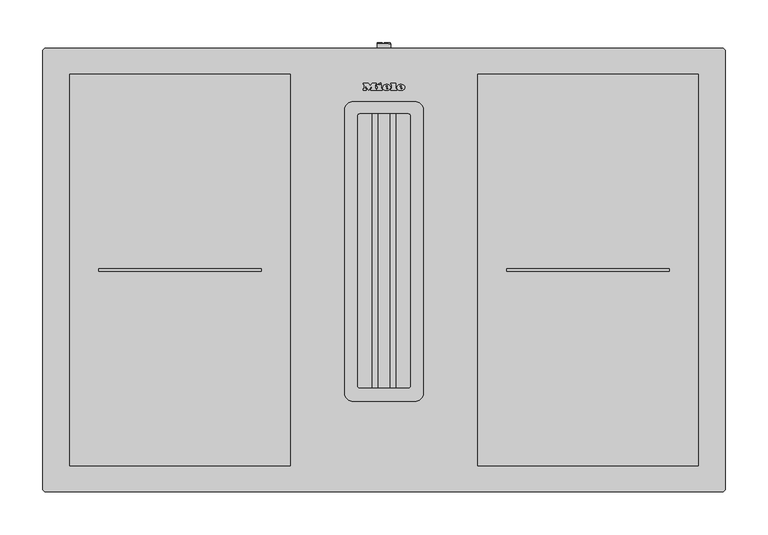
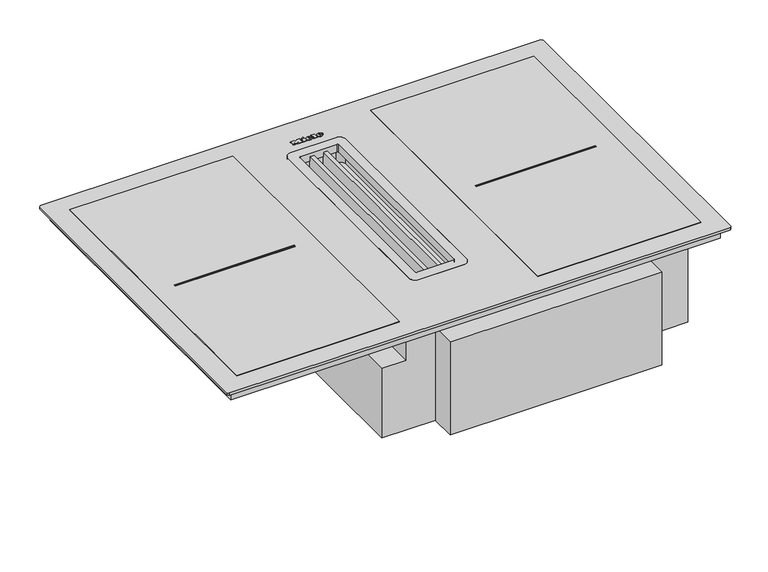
"""IFC4 building model written with IfcOpenShell, lengths in millimetres: proxy geometry, 12904880_BNI_KMDA7676-1FL : 26767675_BNI_12904880_KMDA7676-1FL."""

from ifc_helpers import new_model, si_unit, point, frame, frame_2d, origin, origin_with_axes, place, context, project, spatial, polyline, circle_curve, ellipse_curve, trimmed, segment, composite_curve, outline, extrude, source, transform, mapped, element, save
from ifc_brep_helpers import plane_surface, cylinder_surface, revolved_surface, extruded_surface, advanced_brep


def specialty_equipment_d1ee9a21(model_context):
    return source(origin(), model_context, "Body", "SolidModel", [
        advanced_brep(
        [(19.088016, 472.896, 5.0), (19.088016, 473.704, 5.0), (24.440016, 473.704, 5.0), (15.128016, 473.704, 5.0), (17.328016, 471.0, 5.0), (24.304016, 472.896, 5.0), (21.888016, 472.896, 5.0), (19.984016, 472.0, 5.0), (19.088016, 474.728, 5.0), (19.088016, 475.6, 5.0), (20.456016, 475.6, 5.0), (20.456016, 474.728, 5.0), (19.088016, 472.896, 4.0), (19.984016, 472.0, 4.0), (21.888016, 472.896, 4.0), (24.304016, 472.896, 4.0), (17.328016, 471.0, 4.0), (15.128016, 473.704, 4.0), (24.440016, 473.704, 4.0), (19.088016, 473.704, 4.0), (19.088016, 474.728, 4.0), (20.456016, 474.728, 4.0), (20.456016, 475.6, 4.0), (19.088016, 475.6, 4.0)],
        [
            (0, 1),
            (1, 2),
            (2, 3, ellipse_curve(frame((19.784016, 473.704, 5.0), z_axis=(0.0, 0.0, 1.0), x_axis=(-1.0, 0.0, 0.0)), 4.656, 3.848)),
            (3, 4, circle_curve(frame((18.2240596, 473.976, 5.0), z_axis=(0.0, 0.0, 1.0), x_axis=(0.0, -1.0, 0.0)), 3.1079688)),
            (4, 5, circle_curve(frame((19.6908096, 476.088, 5.0), z_axis=(0.0, 0.0, 1.0), x_axis=(0.0, -1.0, 0.0)), 5.6098607)),
            (5, 6),
            (6, 7, circle_curve(frame((20.3750748, 473.64, 5.0), z_axis=(0.0, 0.0, -1.0), x_axis=(0.0, -1.0, 0.0)), 1.6859795)),
            (7, 0, circle_curve(frame((19.984016, 472.896, 5.0), z_axis=(0.0, 0.0, -1.0), x_axis=(0.0, -1.0, 0.0)), 0.896)),
            (8, 9),
            (9, 10, circle_curve(frame((19.772016, 475.6, 5.0), z_axis=(0.0, 0.0, -1.0), x_axis=(0.0, -1.0, 0.0)), 0.684)),
            (10, 11),
            (11, 8),
            (12, 13, circle_curve(frame((19.984016, 472.896, 4.0), z_axis=(0.0, 0.0, 1.0), x_axis=(0.0, -1.0, 0.0)), 0.896)),
            (13, 14, circle_curve(frame((20.3750748, 473.64, 4.0), z_axis=(0.0, 0.0, 1.0), x_axis=(0.0, -1.0, 0.0)), 1.6859795)),
            (14, 15),
            (15, 16, circle_curve(frame((19.6908096, 476.088, 4.0), z_axis=(0.0, 0.0, -1.0), x_axis=(0.0, -1.0, 0.0)), 5.6098607)),
            (16, 17, circle_curve(frame((18.2240596, 473.976, 4.0), z_axis=(0.0, 0.0, -1.0), x_axis=(0.0, -1.0, 0.0)), 3.1079688)),
            (17, 18, ellipse_curve(frame((19.784016, 473.704, 4.0), z_axis=(0.0, 0.0, -1.0), x_axis=(-1.0, 0.0, 0.0)), 4.656, 3.848)),
            (18, 19),
            (19, 12),
            (20, 21),
            (21, 22),
            (22, 23, circle_curve(frame((19.772016, 475.6, 4.0), z_axis=(0.0, 0.0, 1.0), x_axis=(0.0, -1.0, 0.0)), 0.684)),
            (23, 20),
            (0, 12),
            (19, 1),
            (18, 2),
            (5, 15),
            (14, 6),
            (17, 3),
            (13, 7),
            (16, 4),
            (8, 20),
            (23, 9),
            (22, 10),
            (21, 11),
        ],
        [
            plane_surface(frame((19.088016, 473.704, 5.0), z_axis=(0.0, 0.0, 1.0), x_axis=(0.0, 1.0, 0.0))),
            plane_surface(frame((19.088016, 473.704, 4.0), z_axis=(0.0, 0.0, -1.0), x_axis=(0.0, -1.0, 0.0))),
            plane_surface(frame((19.088016, 472.896, 5.0), z_axis=(1.0, 0.0, 0.0), x_axis=(0.0, 0.0, -1.0))),
            plane_surface(frame((19.088016, 473.704, 5.0), z_axis=(0.0, -1.0, 0.0), x_axis=(0.0, 0.0, -1.0))),
            plane_surface(frame((24.304016, 472.896, 5.0), z_axis=(0.0, 1.0, 0.0), x_axis=(0.0, 0.0, -1.0))),
            extruded_surface(trimmed(ellipse_curve(frame((19.784016, 473.704, 3.0), z_axis=(0.0, 0.0, 1.0), x_axis=(-1.0, 0.0, 0.0)), 4.656, 3.848), [point((24.440016, 473.704, 3.0))], [point((15.128016, 473.704, 3.0))], True, "CARTESIAN"), (0.0, 0.0, 1.0), 1.0),
            revolved_surface(polyline([(20.3750748, 471.9540205, 4.0), (20.3750748, 471.9540205, 5.0)]), (20.3750748, 473.64, 4.0), (0.0, 0.0, -1.0)),
            revolved_surface(polyline([(19.984016, 472.0, 4.0), (19.984016, 472.0, 5.0)]), (19.984016, 472.896, 4.0), (0.0, 0.0, -1.0)),
            cylinder_surface(frame((18.2240596, 473.976, 4.0), z_axis=(0.0, 0.0, 1.0), x_axis=(0.0, -1.0, 0.0)), 3.1079688),
            cylinder_surface(frame((19.6908096, 476.088, 4.0), z_axis=(0.0, 0.0, 1.0), x_axis=(0.0, -1.0, 0.0)), 5.6098607),
            plane_surface(frame((19.088016, 474.728, 5.0), z_axis=(1.0, 0.0, 0.0), x_axis=(0.0, 0.0, -1.0))),
            revolved_surface(polyline([(19.772016, 474.916, 4.0), (19.772016, 474.916, 5.0)]), (19.772016, 475.6, 4.0), (0.0, 0.0, -1.0)),
            plane_surface(frame((20.456016, 475.6, 5.0), z_axis=(-1.0, 0.0, 0.0), x_axis=(0.0, 0.0, -1.0))),
            plane_surface(frame((20.456016, 474.728, 5.0), z_axis=(0.0, 1.0, 0.0), x_axis=(0.0, 0.0, -1.0))),
        ],
        [
            (0, [[1, 2, 3, 4, 5, 6, 7, 8], [9, 10, 11, 12]]),
            (1, [[13, 14, 15, 16, 17, 18, 19, 20], [21, 22, 23, 24]]),
            (2, [[-1, 25, -20, 26]]),
            (3, [[-2, -26, -19, 27]]),
            (4, [[-6, 28, -15, 29]]),
            (5, [[-3, -27, -18, 30]]),
            (6, [[-7, -29, -14, 31]]),
            (7, [[-8, -31, -13, -25]]),
            (8, [[-4, -30, -17, 32]]),
            (9, [[-5, -32, -16, -28]]),
            (10, [[-9, 33, -24, 34]]),
            (11, [[-10, -34, -23, 35]]),
            (12, [[-11, -35, -22, 36]]),
            (13, [[-12, -36, -21, -33]]),
        ],
    ),
        advanced_brep(
        [(2.392016, 472.896, 5.0), (2.392016, 473.704, 5.0), (7.744016, 473.704, 5.0), (-1.567984, 473.704, 5.0), (0.632016, 471.0, 5.0), (7.608016, 472.896, 5.0), (5.192016, 472.896, 5.0), (3.288016, 472.0, 5.0), (2.392016, 474.728, 5.0), (2.392016, 475.6, 5.0), (3.760016, 475.6, 5.0), (3.760016, 474.728, 5.0), (2.392016, 472.896, 4.0), (3.288016, 472.0, 4.0), (5.192016, 472.896, 4.0), (7.608016, 472.896, 4.0), (0.632016, 471.0, 4.0), (-1.567984, 473.704, 4.0), (7.744016, 473.704, 4.0), (2.392016, 473.704, 4.0), (2.392016, 474.728, 4.0), (3.760016, 474.728, 4.0), (3.760016, 475.6, 4.0), (2.392016, 475.6, 4.0)],
        [
            (0, 1),
            (1, 2),
            (2, 3, ellipse_curve(frame((3.088016, 473.704, 5.0), z_axis=(0.0, 0.0, 1.0), x_axis=(-1.0, 0.0, 0.0)), 4.656, 3.848)),
            (3, 4, circle_curve(frame((1.5280596, 473.976, 5.0), z_axis=(0.0, 0.0, 1.0), x_axis=(0.0, -1.0, 0.0)), 3.1079688)),
            (4, 5, circle_curve(frame((2.9948096, 476.088, 5.0), z_axis=(0.0, 0.0, 1.0), x_axis=(0.0, -1.0, 0.0)), 5.6098607)),
            (5, 6),
            (6, 7, circle_curve(frame((3.6790748, 473.64, 5.0), z_axis=(0.0, 0.0, -1.0), x_axis=(0.0, -1.0, 0.0)), 1.6859795)),
            (7, 0, circle_curve(frame((3.288016, 472.896, 5.0), z_axis=(0.0, 0.0, -1.0), x_axis=(0.0, -1.0, 0.0)), 0.896)),
            (8, 9),
            (9, 10, circle_curve(frame((3.076016, 475.6, 5.0), z_axis=(0.0, 0.0, -1.0), x_axis=(0.0, -1.0, 0.0)), 0.684)),
            (10, 11),
            (11, 8),
            (12, 13, circle_curve(frame((3.288016, 472.896, 4.0), z_axis=(0.0, 0.0, 1.0), x_axis=(0.0, -1.0, 0.0)), 0.896)),
            (13, 14, circle_curve(frame((3.6790748, 473.64, 4.0), z_axis=(0.0, 0.0, 1.0), x_axis=(0.0, -1.0, 0.0)), 1.6859795)),
            (14, 15),
            (15, 16, circle_curve(frame((2.9948096, 476.088, 4.0), z_axis=(0.0, 0.0, -1.0), x_axis=(0.0, -1.0, 0.0)), 5.6098607)),
            (16, 17, circle_curve(frame((1.5280596, 473.976, 4.0), z_axis=(0.0, 0.0, -1.0), x_axis=(0.0, -1.0, 0.0)), 3.1079688)),
            (17, 18, ellipse_curve(frame((3.088016, 473.704, 4.0), z_axis=(0.0, 0.0, -1.0), x_axis=(-1.0, 0.0, 0.0)), 4.656, 3.848)),
            (18, 19),
            (19, 12),
            (20, 21),
            (21, 22),
            (22, 23, circle_curve(frame((3.076016, 475.6, 4.0), z_axis=(0.0, 0.0, 1.0), x_axis=(0.0, -1.0, 0.0)), 0.684)),
            (23, 20),
            (0, 12),
            (19, 1),
            (18, 2),
            (5, 15),
            (14, 6),
            (17, 3),
            (13, 7),
            (16, 4),
            (8, 20),
            (23, 9),
            (22, 10),
            (21, 11),
        ],
        [
            plane_surface(frame((2.392016, 473.704, 5.0), z_axis=(0.0, 0.0, 1.0), x_axis=(0.0, 1.0, 0.0))),
            plane_surface(frame((2.392016, 473.704, 4.0), z_axis=(0.0, 0.0, -1.0), x_axis=(0.0, -1.0, 0.0))),
            plane_surface(frame((2.392016, 472.896, 5.0), z_axis=(1.0, 0.0, 0.0), x_axis=(0.0, 0.0, -1.0))),
            plane_surface(frame((2.392016, 473.704, 5.0), z_axis=(0.0, -1.0, 0.0), x_axis=(0.0, 0.0, -1.0))),
            plane_surface(frame((7.608016, 472.896, 5.0), z_axis=(0.0, 1.0, 0.0), x_axis=(0.0, 0.0, -1.0))),
            extruded_surface(trimmed(ellipse_curve(frame((3.088016, 473.704, 3.0), z_axis=(0.0, 0.0, 1.0), x_axis=(-1.0, 0.0, 0.0)), 4.656, 3.848), [point((7.744016, 473.704, 3.0))], [point((-1.567984, 473.704, 3.0))], True, "CARTESIAN"), (0.0, 0.0, 1.0), 1.0),
            revolved_surface(polyline([(3.6790748, 471.9540205, 4.0), (3.6790748, 471.9540205, 5.0)]), (3.6790748, 473.64, 4.0), (0.0, 0.0, -1.0)),
            revolved_surface(polyline([(3.288016, 472.0, 4.0), (3.288016, 472.0, 5.0)]), (3.288016, 472.896, 4.0), (0.0, 0.0, -1.0)),
            cylinder_surface(frame((1.5280596, 473.976, 4.0), z_axis=(0.0, 0.0, 1.0), x_axis=(0.0, -1.0, 0.0)), 3.1079688),
            cylinder_surface(frame((2.9948096, 476.088, 4.0), z_axis=(0.0, 0.0, 1.0), x_axis=(0.0, -1.0, 0.0)), 5.6098607),
            plane_surface(frame((2.392016, 474.728, 5.0), z_axis=(1.0, 0.0, 0.0), x_axis=(0.0, 0.0, -1.0))),
            revolved_surface(polyline([(3.076016, 474.916, 4.0), (3.076016, 474.916, 5.0)]), (3.076016, 475.6, 4.0), (0.0, 0.0, -1.0)),
            plane_surface(frame((3.760016, 475.6, 5.0), z_axis=(-1.0, 0.0, 0.0), x_axis=(0.0, 0.0, -1.0))),
            plane_surface(frame((3.760016, 474.728, 5.0), z_axis=(0.0, 1.0, 0.0), x_axis=(0.0, 0.0, -1.0))),
        ],
        [
            (0, [[1, 2, 3, 4, 5, 6, 7, 8], [9, 10, 11, 12]]),
            (1, [[13, 14, 15, 16, 17, 18, 19, 20], [21, 22, 23, 24]]),
            (2, [[-1, 25, -20, 26]]),
            (3, [[-2, -26, -19, 27]]),
            (4, [[-6, 28, -15, 29]]),
            (5, [[-3, -27, -18, 30]]),
            (6, [[-7, -29, -14, 31]]),
            (7, [[-8, -31, -13, -25]]),
            (8, [[-4, -30, -17, 32]]),
            (9, [[-5, -32, -16, -28]]),
            (10, [[-9, 33, -24, 34]]),
            (11, [[-10, -34, -23, 35]]),
            (12, [[-11, -35, -22, 36]]),
            (13, [[-12, -36, -21, -33]]),
        ],
    ),
        extrude(outline(polyline([(-6.351984, 478.528), (-3.631984, 479.792), (-3.031984, 478.496), (-5.743984, 477.232), (-6.351984, 478.528)])), frame((0.0, 0.0, 4.0), z_axis=(0.0, 0.0, 1.0), x_axis=(1.0, 0.0, 0.0)), (0.0, 0.0, 1.0), 1.0),
        extrude(outline(polyline([(-8.327984, 477.056), (-2.943984, 477.056), (-2.943984, 472.344), (-2.015984, 472.344), (-2.015984, 471.0), (-8.327984, 471.0), (-8.327984, 472.344), (-7.375984, 472.344), (-7.375984, 475.624), (-8.327984, 475.624), (-8.327984, 477.056)])), frame((0.0, 0.0, 4.0), z_axis=(0.0, 0.0, 1.0), x_axis=(1.0, 0.0, 0.0)), (0.0, 0.0, 1.0), 1.0),
        extrude(outline(polyline([(8.192016, 477.696), (8.192016, 479.0), (13.696016, 479.0), (13.696016, 472.344), (14.680016, 472.344), (14.680016, 471.0), (8.192016, 471.0), (8.192016, 472.344), (9.152016, 472.344), (9.152016, 477.696), (8.192016, 477.696)])), frame((0.0, 0.0, 4.0), z_axis=(0.0, 0.0, 1.0), x_axis=(1.0, 0.0, 0.0)), (0.0, 0.0, 1.0), 1.0),
        extrude(outline(polyline([(-24.271984, 477.696), (-24.271984, 479.0), (-18.695984, 479.0), (-16.351984, 476.0), (-14.015984, 479.0), (-9.143984, 479.0), (-9.143984, 477.696), (-10.159984, 477.696), (-10.159984, 472.344), (-9.143984, 472.344), (-9.143984, 471.0), (-15.527984, 471.0), (-15.527984, 472.344), (-14.543984, 472.344), (-14.543984, 475.8152223), (-18.135984, 471.0), (-21.711984, 475.7471247), (-21.711984, 472.344), (-20.751984, 472.344), (-20.751984, 471.0), (-24.271984, 471.0), (-24.271984, 472.344), (-23.303984, 472.344), (-23.303984, 477.696), (-24.271984, 477.696)])), frame((0.0, 0.0, 4.0), z_axis=(0.0, 0.0, 1.0), x_axis=(1.0, 0.0, 0.0)), (0.0, 0.0, 1.0), 1.0),
        extrude(outline(polyline([(-109.7799963, 489.4478004), (-109.7799963, 30.4999887), (-368.2201181, 30.4999887), (-368.2201181, 489.4478004), (-109.7799963, 489.4478004)]), holes=[polyline([(-143.6799963, 261.5278004), (-334.3201181, 261.5278004), (-334.3201181, 258.3678004), (-143.6799963, 258.3678004), (-143.6799963, 261.5278004)])]), frame((0.0, 0.0, 4.0), z_axis=(0.0, 0.0, 1.0), x_axis=(1.0, 0.0, 0.0)), (0.0, 0.0, 1.0), 1.0),
        extrude(outline(polyline([(109.7799963, 489.4478004), (368.2201181, 489.4478004), (368.2201181, 30.4999887), (109.7799963, 30.4999887), (109.7799963, 489.4478004)]), holes=[polyline([(143.6799963, 261.5278004), (143.6799963, 258.3678004), (334.3201181, 258.3678004), (334.3201181, 261.5278004), (143.6799963, 261.5278004)])]), frame((0.0, 0.0, 4.0), z_axis=(0.0, 0.0, 1.0), x_axis=(1.0, 0.0, 0.0)), (0.0, 0.0, 1.0), 1.0),
        extrude(outline(composite_curve([segment(polyline([(-45.9999987, 115.9999992), (-45.9999987, 447.4999992)]), True, "CONTINUOUS"), segment(trimmed(circle_curve(frame_2d((-35.9999987, 447.4999992)), 10.0), [point((-45.9999987, 447.4999992))], [point((-35.9999987, 457.4999992))], False, "CARTESIAN"), True, "CONTINUOUS"), segment(polyline([(-35.9999987, 457.4999992), (35.9999987, 457.4999992)]), True, "CONTINUOUS"), segment(trimmed(circle_curve(frame_2d((35.9999987, 447.4999992)), 10.0), [point((35.9999987, 457.4999992))], [point((45.9999987, 447.4999992))], False, "CARTESIAN"), True, "CONTINUOUS"), segment(polyline([(45.9999987, 447.4999992), (45.9999987, 115.9999992)]), True, "CONTINUOUS"), segment(trimmed(circle_curve(frame_2d((35.9999987, 115.9999992)), 10.0), [point((45.9999987, 115.9999992))], [point((35.9999987, 105.9999992))], False, "CARTESIAN"), True, "CONTINUOUS"), segment(polyline([(35.9999987, 105.9999992), (-35.9999987, 105.9999992)]), True, "CONTINUOUS"), segment(trimmed(circle_curve(frame_2d((-35.9999987, 115.9999992)), 10.0), [point((-35.9999987, 105.9999992))], [point((-45.9999987, 115.9999992))], False, "CARTESIAN"), True, "CONTINUOUS")], self_intersect=False), holes=[composite_curve([segment(trimmed(circle_curve(frame_2d((-28.688139, 124.1576538)), 2.0), [point((-30.688139, 124.1576538))], [point((-28.688139, 122.1576538))], True, "CARTESIAN"), True, "CONTINUOUS"), segment(polyline([(-28.688139, 122.1576538), (28.688139, 122.1576538)]), True, "CONTINUOUS"), segment(trimmed(circle_curve(frame_2d((28.688139, 124.1576538)), 2.0), [point((28.688139, 122.1576538))], [point((30.688139, 124.1576538))], True, "CARTESIAN"), True, "CONTINUOUS"), segment(polyline([(30.688139, 124.1576538), (30.688139, 440.9186707)]), True, "CONTINUOUS"), segment(trimmed(circle_curve(frame_2d((28.688139, 440.9186707)), 2.0), [point((30.688139, 440.9186707))], [point((28.688139, 442.9186707))], True, "CARTESIAN"), True, "CONTINUOUS"), segment(polyline([(28.688139, 442.9186707), (-28.688139, 442.9186707)]), True, "CONTINUOUS"), segment(trimmed(circle_curve(frame_2d((-28.688139, 440.9186707)), 2.0), [point((-28.688139, 442.9186707))], [point((-30.688139, 440.9186707))], True, "CARTESIAN"), True, "CONTINUOUS"), segment(polyline([(-30.688139, 440.9186707), (-30.688139, 124.1576538)]), True, "CONTINUOUS")], self_intersect=False)]), frame((0.0, 0.0, -8.5215403), z_axis=(0.0, 0.0, 1.0), x_axis=(1.0, 0.0, 0.0)), (0.0, 0.0, 1.0), 12.5215403),
        extrude(outline(polyline([(-343.1216701, 96.3863349), (-343.1216701, 495.0), (-75.402586, 495.0), (-75.402586, 96.3863349), (-343.1216701, 96.3863349)])), frame((0.0, 0.0, -46.5), z_axis=(0.0, 0.0, 1.0), x_axis=(1.0, 0.0, 0.0)), (0.0, 0.0, 1.0), 28.6958097),
        extrude(outline(polyline([(336.1107845, 495.0), (336.1107845, 96.3863349), (104.0, 96.3863349), (104.0, 495.0), (336.1107845, 495.0)])), frame((0.0, 0.0, -46.5), z_axis=(0.0, 0.0, 1.0), x_axis=(1.0, 0.0, 0.0)), (0.0, 0.0, 1.0), 28.6958097),
        extrude(outline(polyline([(388.5, 508.4999986), (388.5, 11.4999971), (-388.5, 11.4999971), (-388.5, 508.4999986), (388.5, 508.4999986)]), holes=[composite_curve([segment(polyline([(45.9999987, 115.9999979), (45.9999987, 447.4999992)]), True, "CONTINUOUS"), segment(trimmed(circle_curve(frame_2d((35.9999987, 447.4999992)), 10.0), [point((45.9999987, 447.4999992))], [point((35.9999987, 457.4999992))], True, "CARTESIAN"), True, "CONTINUOUS"), segment(polyline([(35.9999987, 457.4999992), (-35.9999987, 457.4999992)]), True, "CONTINUOUS"), segment(trimmed(circle_curve(frame_2d((-35.9999987, 447.4999992)), 10.0), [point((-35.9999987, 457.4999992))], [point((-45.9999987, 447.4999992))], True, "CARTESIAN"), True, "CONTINUOUS"), segment(polyline([(-45.9999987, 447.4999992), (-45.9999987, 115.9999979)]), True, "CONTINUOUS"), segment(trimmed(circle_curve(frame_2d((-36.0, 115.9999979)), 9.9999987), [point((-45.9999987, 115.9999979))], [point((-36.0, 105.9999992))], True, "CARTESIAN"), True, "CONTINUOUS"), segment(polyline([(-36.0, 105.9999992), (36.0, 105.9999992)]), True, "CONTINUOUS"), segment(trimmed(circle_curve(frame_2d((36.0, 115.9999979)), 9.9999987), [point((36.0, 105.9999992))], [point((45.9999987, 115.9999979))], True, "CARTESIAN"), True, "CONTINUOUS")], self_intersect=False)]), frame((0.0, 0.0, -17.8041903), z_axis=(0.0, 0.0, 1.0), x_axis=(1.0, 0.0, 0.0)), (0.0, 0.0, 1.0), 17.8041903),
        extrude(outline(polyline([(397.5, 520.0), (400.0, 517.5), (400.0, 2.5), (397.5, 0.0), (-397.5, 0.0), (-400.0, 2.5), (-400.0, 517.5), (-397.5, 520.0), (397.5, 520.0)]), holes=[composite_curve([segment(polyline([(35.9999987, 457.4999992), (-35.9999987, 457.4999992)]), True, "CONTINUOUS"), segment(trimmed(circle_curve(frame_2d((-35.9999987, 447.4999992)), 10.0), [point((-35.9999987, 457.4999992))], [point((-45.9999987, 447.4999992))], True, "CARTESIAN"), True, "CONTINUOUS"), segment(polyline([(-45.9999987, 447.4999992), (-45.9999987, 115.9999979)]), True, "CONTINUOUS"), segment(trimmed(circle_curve(frame_2d((-36.0, 115.9999979)), 9.9999987), [point((-45.9999987, 115.9999979))], [point((-36.0, 105.9999992))], True, "CARTESIAN"), True, "CONTINUOUS"), segment(polyline([(-36.0, 105.9999992), (36.0, 105.9999992)]), True, "CONTINUOUS"), segment(trimmed(circle_curve(frame_2d((36.0, 115.9999979)), 9.9999987), [point((36.0, 105.9999992))], [point((45.9999987, 115.9999979))], True, "CARTESIAN"), True, "CONTINUOUS"), segment(polyline([(45.9999987, 115.9999979), (45.9999987, 447.4999992)]), True, "CONTINUOUS"), segment(trimmed(circle_curve(frame_2d((35.9999987, 447.4999992)), 10.0), [point((45.9999987, 447.4999992))], [point((35.9999987, 457.4999992))], True, "CARTESIAN"), True, "CONTINUOUS")], self_intersect=False)]), origin_with_axes(), (0.0, 0.0, 1.0), 4.0),
        extrude(outline(composite_curve([segment(trimmed(circle_curve(frame_2d((-148.0, 170.0)), 78.9393921), [point((-148.0, 91.0606079))], [point((-148.0, 248.9393921))], False, "CARTESIAN"), True, "CONTINUOUS"), segment(trimmed(circle_curve(frame_2d((-148.0, 170.0)), 78.9393921), [point((-148.0, 248.9393921))], [point((-148.0, 91.0606079))], False, "CARTESIAN"), True, "CONTINUOUS")], self_intersect=False), holes=[composite_curve([segment(trimmed(circle_curve(frame_2d((-148.0, 170.0)), 77.9393921), [point((-148.0, 92.0606079))], [point((-148.0, 247.9393921))], True, "CARTESIAN"), True, "CONTINUOUS"), segment(trimmed(circle_curve(frame_2d((-148.0, 170.0)), 77.9393921), [point((-148.0, 247.9393921))], [point((-148.0, 92.0606079))], True, "CARTESIAN"), True, "CONTINUOUS")], self_intersect=False)]), frame((0.0, 426.3304607, 0.0), z_axis=(0.0, 1.0, 0.0), x_axis=(0.0, 0.0, 1.0)), (0.0, 0.0, 1.0), 17.9123918),
        extrude(outline(polyline([(-13.6048155, 120.1989746), (-13.6048155, 443.7301863), (-7.3951845, 443.7301863), (-7.3951845, 120.1989746), (-13.6048155, 120.1989746)])), frame((0.0, 0.0, -26.3132825), z_axis=(0.0, 0.0, 1.0), x_axis=(1.0, 0.0, 0.0)), (0.0, 0.0, 1.0), 24.7104098),
        extrude(outline(polyline([(13.6048155, 120.1989746), (7.3951845, 120.1989746), (7.3951845, 443.7301863), (13.6048155, 443.7301863), (13.6048155, 120.1989746)])), frame((0.0, 0.0, -26.3132825), z_axis=(0.0, 0.0, 1.0), x_axis=(1.0, 0.0, 0.0)), (0.0, 0.0, 1.0), 24.7104098),
        advanced_brep(
        [(53.6506051, 96.5541828, -54.0), (52.4705494, 96.5541828, -54.0), (52.4705494, 96.5541828, -17.8041903), (-52.4705494, 96.5541828, -17.8041903), (-52.4705494, 96.5541828, -54.0), (-60.8014535, 96.5541828, -54.0), (-60.8014535, 96.5541828, -117.5), (-100.1207428, 96.5541828, -117.5), (-100.1207428, 96.5541828, -234.0), (-15.0, 96.5541828, -234.0), (-15.0, 96.5541828, -77.5), (53.6506051, 96.5541828, -77.5), (-100.1207428, 495.5, -234.0), (-100.1207428, 495.5, -117.5), (-60.8014535, 495.5, -117.5), (-60.8014535, 495.5, -54.0), (-52.4705494, 495.5, -54.0), (-52.4705494, 495.5, -17.8041903), (52.4705494, 495.5, -17.8041903), (52.4705494, 495.5, -54.0), (53.6506051, 495.5, -54.0), (53.6506051, 495.5, -234.0), (53.6506051, 101.0, -77.5), (53.6506051, 101.0, -56.9972547), (53.6506051, 426.3304607, -56.9972547), (53.6506051, 426.3304607, -234.0), (45.9999987, 447.4999992, -17.8041903), (45.9999987, 115.9999979, -17.8041903), (36.0, 105.9999992, -17.8041903), (-36.0, 105.9999992, -17.8041903), (-45.9999987, 115.9999979, -17.8041903), (-45.9999987, 447.4999992, -17.8041903), (-35.9999987, 457.4999992, -17.8041903), (35.9999987, 457.4999992, -17.8041903), (388.5, 101.0, -56.9972547), (321.1107845, 101.0, -77.5), (321.1107845, 101.0, -213.2731462), (388.5, 101.0, -213.2731462), (388.5, 426.3304607, -56.9972547), (388.5, 426.3304607, -213.2731462), (342.3970703, 426.3304607, -213.2731462), (342.3970703, 426.3304607, -234.0), (342.3970703, 388.6357055, -234.0), (380.8010657, 352.3414513, -234.0), (380.8010657, 214.7386902, -234.0), (267.9814513, 109.112153, -234.0), (321.1107845, 109.112153, -234.0), (321.1107845, 55.7496808, -234.0), (-15.0, 55.7496808, -234.0), (380.8010657, 214.7386902, -213.2731462), (380.8010657, 352.3414513, -213.2731462), (342.3970703, 388.6357055, -213.2731462), (321.1107845, 109.112153, -213.2731462), (267.9814513, 109.112153, -213.2731462), (45.9999987, 115.9999979, -38.2608409), (45.9999987, 447.4999992, -38.2608409), (35.9999987, 457.4999992, -38.2608409), (-35.9999987, 457.4999992, -38.2608409), (-45.9999987, 447.4999992, -38.2608409), (-45.9999987, 115.9999979, -38.2608409), (-36.0, 105.9999992, -38.2608409), (36.0, 105.9999992, -38.2608409), (-15.0, 55.7496808, -77.5), (321.1107845, 55.7496808, -77.5)],
        [
            (0, 1),
            (1, 2),
            (2, 3),
            (3, 4),
            (4, 5),
            (5, 6),
            (6, 7),
            (7, 8),
            (8, 9),
            (9, 10),
            (10, 11),
            (11, 0),
            (12, 13),
            (13, 14),
            (14, 15),
            (15, 16),
            (16, 17),
            (17, 18),
            (18, 19),
            (19, 20),
            (20, 21),
            (21, 12),
            (20, 0),
            (11, 22),
            (22, 23),
            (23, 24),
            (24, 25),
            (25, 21),
            (19, 1),
            (18, 2),
            (17, 3),
            (26, 27),
            (27, 28, circle_curve(frame((36.0, 115.9999979, -17.8041903), z_axis=(0.0, 0.0, -1.0), x_axis=(1.0, 0.0, 0.0)), 9.9999987)),
            (28, 29),
            (29, 30, circle_curve(frame((-36.0, 115.9999979, -17.8041903), z_axis=(0.0, 0.0, -1.0), x_axis=(1.0, 0.0, 0.0)), 9.9999987)),
            (30, 31),
            (31, 32, circle_curve(frame((-35.9999987, 447.4999992, -17.8041903), z_axis=(0.0, 0.0, -1.0), x_axis=(1.0, 0.0, 0.0)), 10.0)),
            (32, 33),
            (33, 26, circle_curve(frame((35.9999987, 447.4999992, -17.8041903), z_axis=(0.0, 0.0, -1.0), x_axis=(1.0, 0.0, 0.0)), 10.0)),
            (16, 4),
            (15, 5),
            (14, 6),
            (13, 7),
            (12, 8),
            (34, 23),
            (22, 35),
            (35, 36),
            (36, 37),
            (37, 34),
            (24, 38),
            (38, 39),
            (39, 40),
            (40, 41),
            (41, 25),
            (38, 34),
            (37, 39),
            (41, 42),
            (42, 43, circle_curve(frame((322.8680046, 329.506125, -234.0), z_axis=(0.0, 0.0, -1.0), x_axis=(1.0, 0.0, 0.0)), 62.2711145)),
            (43, 44),
            (44, 45, circle_curve(frame((212.1419224, 281.8188418, -234.0), z_axis=(0.0, 0.0, -1.0), x_axis=(1.0, 0.0, 0.0)), 181.5093753)),
            (45, 46),
            (46, 47),
            (47, 48),
            (48, 9),
            (49, 50),
            (50, 51, circle_curve(frame((322.8680046, 329.506125, -213.2731462), z_axis=(0.0, 0.0, 1.0), x_axis=(1.0, 0.0, 0.0)), 62.2711145)),
            (51, 40),
            (36, 52),
            (52, 53),
            (53, 49, circle_curve(frame((212.1419224, 281.8188418, -213.2731462), z_axis=(0.0, 0.0, 1.0), x_axis=(1.0, 0.0, 0.0)), 181.5093753)),
            (49, 44),
            (43, 50),
            (53, 45),
            (51, 42),
            (54, 55),
            (55, 56, circle_curve(frame((35.9999987, 447.4999992, -38.2608409), z_axis=(0.0, 0.0, 1.0), x_axis=(1.0, 0.0, 0.0)), 10.0)),
            (56, 57),
            (57, 58, circle_curve(frame((-35.9999987, 447.4999992, -38.2608409), z_axis=(0.0, 0.0, 1.0), x_axis=(1.0, 0.0, 0.0)), 10.0)),
            (58, 59),
            (59, 60, circle_curve(frame((-36.0, 115.9999979, -38.2608409), z_axis=(0.0, 0.0, 1.0), x_axis=(1.0, 0.0, 0.0)), 9.9999987)),
            (60, 61),
            (61, 54, circle_curve(frame((36.0, 115.9999979, -38.2608409), z_axis=(0.0, 0.0, 1.0), x_axis=(1.0, 0.0, 0.0)), 9.9999987)),
            (54, 27),
            (26, 55),
            (33, 56),
            (32, 57),
            (31, 58),
            (30, 59),
            (29, 60),
            (28, 61),
            (62, 48),
            (47, 63),
            (63, 62),
            (52, 46),
            (62, 10),
            (35, 63),
        ],
        [
            plane_surface(frame((380.8010657, 96.5541828, -234.0), z_axis=(0.0, -1.0, 0.0), x_axis=(1.0, 0.0, 0.0))),
            plane_surface(frame((380.8010657, 495.5, -234.0), z_axis=(0.0, 1.0, 0.0), x_axis=(-1.0, 0.0, 0.0))),
            plane_surface(frame((53.6506051, 96.5541828, -234.0), z_axis=(1.0, 0.0, 0.0), x_axis=(0.0, 1.0, 0.0))),
            plane_surface(frame((53.6506051, 96.5541828, -54.0), z_axis=(0.0, 0.0, 1.0), x_axis=(0.0, 1.0, 0.0))),
            plane_surface(frame((52.4705494, 96.5541828, -54.0), z_axis=(1.0, 0.0, 0.0), x_axis=(0.0, 1.0, 0.0))),
            plane_surface(frame((52.4705494, 96.5541828, -17.8041903), z_axis=(0.0, 0.0, 1.0), x_axis=(0.0, 1.0, 0.0))),
            plane_surface(frame((-52.4705494, 96.5541828, -17.8041903), z_axis=(-1.0, 0.0, 0.0), x_axis=(0.0, 1.0, 0.0))),
            plane_surface(frame((-52.4705494, 96.5541828, -54.0), z_axis=(0.0, 0.0, 1.0), x_axis=(0.0, 1.0, 0.0))),
            plane_surface(frame((-60.8014535, 96.5541828, -54.0), z_axis=(-1.0, 0.0, 0.0), x_axis=(0.0, 1.0, 0.0))),
            plane_surface(frame((-60.8014535, 96.5541828, -117.5), z_axis=(0.0, 0.0, 1.0), x_axis=(0.0, 1.0, 0.0))),
            plane_surface(frame((-100.1207428, 96.5541828, -117.5), z_axis=(-1.0, 0.0, 0.0), x_axis=(0.0, 1.0, 0.0))),
            plane_surface(frame((53.7285029, 101.0, -56.9972547), z_axis=(0.0, -1.0, 0.0), x_axis=(-1.0, 0.0, 0.0))),
            plane_surface(frame((53.7285029, 426.3304607, -56.9972547), z_axis=(0.0, 1.0, 0.0), x_axis=(1.0, 0.0, 0.0))),
            plane_surface(frame((388.5, 101.0, -234.0), z_axis=(1.0, 0.0, 0.0), x_axis=(0.0, 1.0, 0.0))),
            plane_surface(frame((388.5, 101.0, -56.9972547), z_axis=(0.0, 0.0, 1.0), x_axis=(0.0, 1.0, 0.0))),
            plane_surface(frame((53.6506051, 101.0, -234.0), z_axis=(0.0, 0.0, -1.0), x_axis=(0.0, 1.0, 0.0))),
            plane_surface(frame((342.3970703, 388.6357055, -213.2731462), z_axis=(0.0, 0.0, -1.0), x_axis=(0.0, -1.0, 0.0))),
            plane_surface(frame((380.8010657, 352.3414513, -213.2731462), z_axis=(1.0, 0.0, 0.0), x_axis=(0.0, 0.0, -1.0))),
            cylinder_surface(frame((212.1419224, 281.8188418, -301.7152941), z_axis=(0.0, 0.0, -1.0), x_axis=(1.0, 0.0, 0.0)), 181.5093753),
            plane_surface(frame((342.3970703, 437.085126, -213.2731462), z_axis=(1.0, 0.0, 0.0), x_axis=(0.0, 0.0, -1.0))),
            cylinder_surface(frame((322.8680046, 329.506125, -301.7152941), z_axis=(0.0, 0.0, -1.0), x_axis=(1.0, 0.0, 0.0)), 62.2711145),
            plane_surface(frame((45.9999987, 447.4999992, -38.2608409), z_axis=(0.0, 0.0, 1.0), x_axis=(0.0, -1.0, 0.0))),
            plane_surface(frame((45.9999987, 115.9999979, 48.6771451), z_axis=(-1.0, 0.0, 0.0), x_axis=(0.0, 0.0, -1.0))),
            revolved_surface(polyline([(45.9999987, 447.4999992, -17.8041903), (45.9999987, 447.4999992, -38.2608409)]), (35.9999987, 447.4999992, -38.2608409), (0.0, 0.0, 1.0)),
            plane_surface(frame((35.9999987, 457.4999992, 48.6771451), z_axis=(0.0, -1.0, 0.0), x_axis=(0.0, 0.0, -1.0))),
            revolved_surface(polyline([(-25.9999987, 447.4999992, -17.8041903), (-25.9999987, 447.4999992, -38.2608409)]), (-35.9999987, 447.4999992, -38.2608409), (0.0, 0.0, 1.0)),
            plane_surface(frame((-45.9999987, 447.4999992, 48.6771451), z_axis=(1.0, 0.0, 0.0), x_axis=(0.0, 0.0, -1.0))),
            revolved_surface(polyline([(-26.0000013, 115.9999979, -17.8041903), (-26.0000013, 115.9999979, -38.2608409)]), (-36.0, 115.9999979, -38.2608409), (0.0, 0.0, 1.0)),
            plane_surface(frame((-36.0, 105.9999992, 48.6771451), z_axis=(0.0, 1.0, 0.0), x_axis=(0.0, 0.0, -1.0))),
            revolved_surface(polyline([(45.9999987, 115.9999979, -17.8041903), (45.9999987, 115.9999979, -38.2608409)]), (36.0, 115.9999979, -38.2608409), (0.0, 0.0, 1.0)),
            plane_surface(frame((-15.0, 55.7496808, -92.8266525), z_axis=(0.0, -1.0, 0.0), x_axis=(0.0, 0.0, -1.0))),
            plane_surface(frame((-15.0, 109.112153, -92.8266525), z_axis=(0.0, 1.0, 0.0), x_axis=(0.0, 0.0, 1.0))),
            plane_surface(frame((-15.0, 55.7496808, -77.5), z_axis=(-1.0, 0.0, 0.0), x_axis=(0.0, 1.0, 0.0))),
            plane_surface(frame((321.1107845, 55.7496808, -234.0), z_axis=(1.0, 0.0, 0.0), x_axis=(0.0, 1.0, 0.0))),
            plane_surface(frame((321.1107845, 55.7496808, -77.5), z_axis=(0.0, 0.0, 1.0), x_axis=(0.0, 1.0, 0.0))),
        ],
        [
            (0, [[1, 2, 3, 4, 5, 6, 7, 8, 9, 10, 11, 12]]),
            (1, [[13, 14, 15, 16, 17, 18, 19, 20, 21, 22]]),
            (2, [[-21, 23, -12, 24, 25, 26, 27, 28]]),
            (3, [[-1, -23, -20, 29]]),
            (4, [[-2, -29, -19, 30]]),
            (5, [[-3, -30, -18, 31], [32, 33, 34, 35, 36, 37, 38, 39]]),
            (6, [[-4, -31, -17, 40]]),
            (7, [[-5, -40, -16, 41]]),
            (8, [[-6, -41, -15, 42]]),
            (9, [[-7, -42, -14, 43]]),
            (10, [[-8, -43, -13, 44]]),
            (11, [[45, -25, 46, 47, 48, 49]]),
            (12, [[50, 51, 52, 53, 54, -27]]),
            (13, [[55, -49, 56, -51]]),
            (14, [[-45, -55, -50, -26]]),
            (15, [[-54, 57, 58, 59, 60, 61, 62, 63, 64, -9, -44, -22, -28]]),
            (16, [[65, 66, 67, -52, -56, -48, 68, 69, 70]]),
            (17, [[-65, 71, -59, 72]]),
            (18, [[-71, -70, 73, -60]]),
            (19, [[-67, 74, -57, -53]]),
            (20, [[-66, -72, -58, -74]]),
            (21, [[75, 76, 77, 78, 79, 80, 81, 82]]),
            (22, [[-75, 83, -32, 84]]),
            (23, [[-76, -84, -39, 85]]),
            (24, [[-77, -85, -38, 86]]),
            (25, [[-78, -86, -37, 87]]),
            (26, [[-79, -87, -36, 88]]),
            (27, [[-80, -88, -35, 89]]),
            (28, [[-81, -89, -34, 90]]),
            (29, [[-82, -90, -33, -83]]),
            (30, [[91, -63, 92, 93]]),
            (31, [[-61, -73, -69, 94]]),
            (32, [[-91, 95, -10, -64]]),
            (33, [[-92, -62, -94, -68, -47, 96]]),
            (34, [[-93, -96, -46, -24, -11, -95]]),
        ],
    ),
        extrude(outline(polyline([(-110.0337615, 7.3772603), (-99.9881305, 7.3772603), (-99.9881305, 0.156963), (-101.2438343, 0.156963), (-101.2438343, 6.1215564), (-104.226131, 6.1215564), (-104.226131, 0.470889), (-105.4818349, 0.470889), (-105.4818349, 6.1215564), (-108.7780576, 6.1215564), (-108.7780576, 0.0), (-110.0337615, 0.0), (-110.0337615, 7.3772603)])), frame((0.0, 525.5, 0.0), z_axis=(0.0, 1.0, 0.0), x_axis=(0.0, 0.0, 1.0)), (0.0, 0.0, 1.0), 1.0),
        extrude(outline(polyline([(-110.0337615, -1.8835558), (-99.9881305, -1.8835558), (-99.9881305, -3.1392597), (-108.7780576, -3.1392597), (-108.7780576, -8.1620752), (-110.0337615, -8.1620752), (-110.0337615, -1.8835558)])), frame((0.0, 525.5, 0.0), z_axis=(0.0, 1.0, 0.0), x_axis=(0.0, 0.0, 1.0)), (0.0, 0.0, 1.0), 1.0),
        extrude(outline(composite_curve([segment(trimmed(circle_curve(frame_2d((-105.3066032, 0.0)), 8.0), [point((-105.3066032, -8.0))], [point((-105.3066032, 8.0))], False, "CARTESIAN"), True, "CONTINUOUS"), segment(trimmed(circle_curve(frame_2d((-105.3066032, 0.0)), 8.0), [point((-105.3066032, 8.0))], [point((-105.3066032, -8.0))], False, "CARTESIAN"), True, "CONTINUOUS")], self_intersect=False)), frame((0.0, 495.5, 0.0), z_axis=(0.0, 1.0, 0.0), x_axis=(0.0, 0.0, 1.0)), (0.0, 0.0, 1.0), 30.0),
        extrude(outline(polyline([(-153.0, 178.547125), (-142.954369, 174.5372113), (-142.954369, 173.4679009), (-153.0, 169.4579872), (-153.0, 170.7848149), (-149.8607403, 171.9350593), (-149.8607403, 176.0725055), (-153.0, 177.2202973), (-153.0, 178.547125)]), holes=[polyline([(-148.6050364, 175.6114267), (-148.6050364, 172.3936855), (-146.135322, 173.2986752), (-144.2100729, 174.0025561), (-145.9194979, 174.6279555), (-148.6050364, 175.6114267)])]), frame((0.0, 444.2428525, 0.0), z_axis=(0.0, 1.0, 0.0), x_axis=(0.0, 0.0, 1.0)), (0.0, 0.0, 1.0), 1.0),
        extrude(outline(polyline([(-153.0, 168.1164442), (-142.954369, 168.1164442), (-142.954369, 166.8607403), (-151.7442961, 166.8607403), (-151.7442961, 161.8379248), (-153.0, 161.8379248), (-153.0, 168.1164442)])), frame((0.0, 444.2428525, 0.0), z_axis=(0.0, 1.0, 0.0), x_axis=(0.0, 0.0, 1.0)), (0.0, 0.0, 1.0), 1.0),
    ])


if __name__ == "__main__":
    model = new_model("IFC4")
    model_context = context("Model", 3, world=origin())
    ifc_project = project(units=[si_unit("LENGTHUNIT", "METRE", prefix="MILLI")], contexts=[model_context])
    site = spatial("IfcSite", under=ifc_project)
    building = spatial("IfcBuilding", under=site)
    placement = place(None, origin())
    specialty_equipment_shape = specialty_equipment_d1ee9a21(model_context)
    element("IfcBuildingElementProxy", 1, Name="12904880_BNI_KMDA7676-1FL : 26767675_BNI_12904880_KMDA7676-1FL", ObjectType="12904880_BNI_KMDA7676-1FL : 26767675_BNI_12904880_KMDA7676-1FL", at=placement, inside=building, context=model_context, shape_type="MappedRepresentation", body=[
        mapped(specialty_equipment_shape, transform((0.0, 0.0, 0.0), x_axis=(1.0, 0.0, 0.0), y_axis=(0.0, 1.0, 0.0), z_axis=(0.0, 0.0, 1.0))),
    ])
    save(model, "model.ifc")
